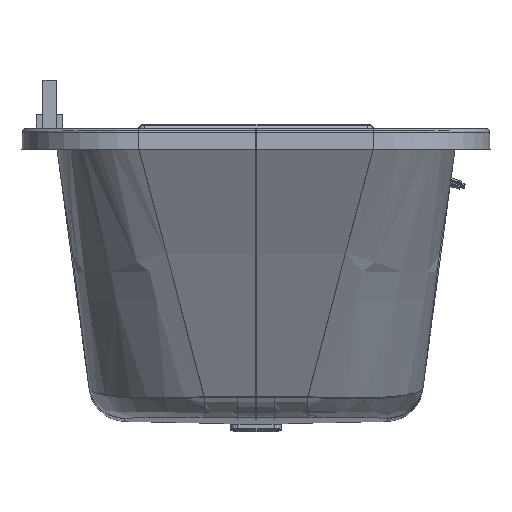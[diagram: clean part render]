
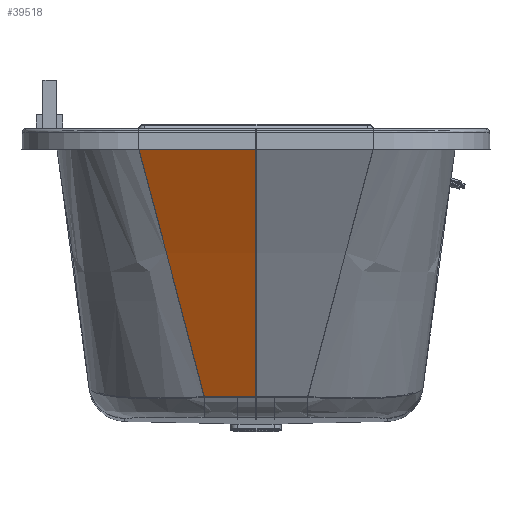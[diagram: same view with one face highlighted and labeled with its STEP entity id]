
A CAD part, left-side view. The second image highlights one B-rep face of the part: STEP entity #39518.
In plain terms, the highlighted free-form (B-spline) face has degree [2, 1] with [5, 2] control points.
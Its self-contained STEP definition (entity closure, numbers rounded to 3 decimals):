
#21742=CARTESIAN_POINT('',(-616.805,0.734,-458.835));
#21743=VERTEX_POINT('',#21742);
#21825=CARTESIAN_POINT('',(-839.7,0.734,-33.56));
#21826=VERTEX_POINT('',#21825);
#23686=CARTESIAN_POINT('',(-616.839,88.33,-458.768));
#23687=VERTEX_POINT('',#23686);
#23780=CARTESIAN_POINT('',(-616.805,31.58,-458.835));
#23781=VERTEX_POINT('',#23780);
#23789=CARTESIAN_POINT('',(-616.805,31.58,-458.835));
#23790=CARTESIAN_POINT('',(-616.805,40.278,-458.835));
#23791=CARTESIAN_POINT('',(-616.81,59.194,-458.824));
#23792=CARTESIAN_POINT('',(-616.827,78.111,-458.792));
#23793=CARTESIAN_POINT('',(-616.839,88.33,-458.768));
#23794=B_SPLINE_CURVE_WITH_KNOTS('',3,(#23789,#23790,#23791,#23792,#23793),.UNSPECIFIED.,.F.,.U.,(4,1,4),(0.0,26.223,57.033),.UNSPECIFIED.);
#23795=EDGE_CURVE('',#23781,#23687,#23794,.T.);
#23813=CARTESIAN_POINT('',(-616.805,0.734,-458.835));
#23814=DIRECTION('',(0.0,1.0,0.0));
#23815=VECTOR('',#23814,30.846);
#23816=LINE('',#23813,#23815);
#23817=EDGE_CURVE('',#21743,#23781,#23816,.T.);
#23942=CARTESIAN_POINT('',(-839.7,200.544,-33.56));
#23943=VERTEX_POINT('',#23942);
#23951=CARTESIAN_POINT('',(-839.7,200.544,-33.56));
#23952=DIRECTION('',(0.0,-1.0,0.0));
#23953=VECTOR('',#23952,199.809);
#23954=LINE('',#23951,#23953);
#23955=EDGE_CURVE('',#23943,#21826,#23954,.T.);
#39346=CARTESIAN_POINT('',(-742.87,153.104,-211.955));
#39347=VERTEX_POINT('',#39346);
#39348=CARTESIAN_POINT('',(-616.839,88.33,-458.768));
#39349=CARTESIAN_POINT('',(-628.863,94.521,-435.169));
#39350=CARTESIAN_POINT('',(-640.887,100.713,-411.57));
#39351=CARTESIAN_POINT('',(-652.912,106.903,-387.971));
#39352=CARTESIAN_POINT('',(-664.936,113.093,-364.371));
#39353=CARTESIAN_POINT('',(-676.96,119.289,-340.773));
#39354=CARTESIAN_POINT('',(-692.626,127.353,-310.026));
#39355=CARTESIAN_POINT('',(-708.292,135.419,-279.28));
#39356=CARTESIAN_POINT('',(-711.936,137.294,-272.134));
#39357=CARTESIAN_POINT('',(-715.576,139.17,-264.986));
#39358=CARTESIAN_POINT('',(-719.21,141.045,-257.835));
#39359=CARTESIAN_POINT('',(-725.177,144.106,-246.168));
#39360=CARTESIAN_POINT('',(-731.174,147.167,-234.516));
#39361=CARTESIAN_POINT('',(-733.504,148.355,-229.999));
#39362=CARTESIAN_POINT('',(-735.839,149.542,-225.485));
#39363=CARTESIAN_POINT('',(-738.178,150.729,-220.972));
#39364=CARTESIAN_POINT('',(-740.522,151.917,-216.463));
#39365=CARTESIAN_POINT('',(-742.87,153.104,-211.955));
#39366=B_SPLINE_CURVE_WITH_KNOTS('',7,(#39348,#39349,#39350,#39351,#39352,#39353,#39354,#39355,#39356,#39357,#39358,#39359,#39360,#39361,#39362,#39363,#39364,#39365),.UNSPECIFIED.,.F.,.U.,(8,5,5,8),(0.072,0.43,0.538,0.607),.UNSPECIFIED.);
#39367=EDGE_CURVE('',#23687,#39347,#39366,.T.);
#39369=CARTESIAN_POINT('',(-838.887,200.157,-35.0));
#39370=VERTEX_POINT('',#39369);
#39371=CARTESIAN_POINT('',(-742.87,153.104,-211.955));
#39372=CARTESIAN_POINT('',(-756.16,159.824,-186.446));
#39373=CARTESIAN_POINT('',(-769.592,166.545,-161.013));
#39374=CARTESIAN_POINT('',(-783.168,173.266,-135.655));
#39375=CARTESIAN_POINT('',(-796.886,179.983,-110.373));
#39376=CARTESIAN_POINT('',(-810.745,186.707,-85.169));
#39377=CARTESIAN_POINT('',(-824.746,193.431,-60.045));
#39378=CARTESIAN_POINT('',(-838.887,200.157,-35.));
#39379=B_SPLINE_CURVE_WITH_KNOTS('',7,(#39371,#39372,#39373,#39374,#39375,#39376,#39377,#39378),.UNSPECIFIED.,.F.,.U.,(8,8),(0.607,0.995),.UNSPECIFIED.);
#39380=EDGE_CURVE('',#39347,#39370,#39379,.T.);
#39382=CARTESIAN_POINT('',(-838.887,200.157,-35.));
#39383=CARTESIAN_POINT('',(-839.003,200.212,-34.794));
#39384=CARTESIAN_POINT('',(-839.119,200.268,-34.589));
#39385=CARTESIAN_POINT('',(-839.235,200.323,-34.383));
#39386=CARTESIAN_POINT('',(-839.352,200.378,-34.177));
#39387=CARTESIAN_POINT('',(-839.468,200.433,-33.972));
#39388=CARTESIAN_POINT('',(-839.584,200.489,-33.766));
#39389=CARTESIAN_POINT('',(-839.7,200.544,-33.56));
#39390=B_SPLINE_CURVE_WITH_KNOTS('',7,(#39382,#39383,#39384,#39385,#39386,#39387,#39388,#39389),.UNSPECIFIED.,.F.,.U.,(8,8),(0.995,0.998),.UNSPECIFIED.);
#39391=EDGE_CURVE('',#39370,#23943,#39390,.T.);
#39447=CARTESIAN_POINT('',(-839.7,0.734,-33.56));
#39448=CARTESIAN_POINT('',(-776.481,0.734,-145.454));
#39449=CARTESIAN_POINT('',(-718.135,0.734,-259.964));
#39450=CARTESIAN_POINT('',(-667.47,0.734,-359.399));
#39451=CARTESIAN_POINT('',(-616.805,0.734,-458.835));
#39452=CARTESIAN_POINT('',(-839.7,200.544,-33.56));
#39453=CARTESIAN_POINT('',(-776.481,200.544,-145.454));
#39454=CARTESIAN_POINT('',(-718.135,200.544,-259.964));
#39455=CARTESIAN_POINT('',(-667.47,200.544,-359.399));
#39456=CARTESIAN_POINT('',(-616.805,200.544,-458.835));
#39464=(BOUNDED_SURFACE()B_SPLINE_SURFACE(2,1,((#39447,#39452),(#39448,#39453),(#39449,#39454),(#39450,#39455),(#39451,#39456)),.UNSPECIFIED.,.F.,.F.,.U.)B_SPLINE_SURFACE_WITH_KNOTS((3,2,3),(2,2),(0.819,259.118,483.414),(0.,1.),.UNSPECIFIED.)GEOMETRIC_REPRESENTATION_ITEM()RATIONAL_B_SPLINE_SURFACE(((1.,1.),(1.,1.),(1.0,1.0),(1.0,1.0),(1.0,1.0)))REPRESENTATION_ITEM('')SURFACE());
#39465=CARTESIAN_POINT('',(-838.887,0.734,-35.0));
#39466=VERTEX_POINT('',#39465);
#39467=CARTESIAN_POINT('',(-742.87,0.734,-211.955));
#39468=VERTEX_POINT('',#39467);
#39469=CARTESIAN_POINT('',(-838.887,0.734,-35.));
#39470=CARTESIAN_POINT('',(-789.387,0.734,-122.668));
#39471=CARTESIAN_POINT('',(-742.87,0.734,-211.955));
#39479=(BOUNDED_CURVE()B_SPLINE_CURVE(2,(#39469,#39470,#39471),.UNSPECIFIED.,.F.,.U.)B_SPLINE_CURVE_WITH_KNOTS((3,3),(2.481,204.822),.UNSPECIFIED.)CURVE()GEOMETRIC_REPRESENTATION_ITEM()RATIONAL_B_SPLINE_CURVE((1.,1.,1.))REPRESENTATION_ITEM(''));
#39480=EDGE_CURVE('',#39466,#39468,#39479,.T.);
#39481=ORIENTED_EDGE('',*,*,#39480,.F.);
#39482=CARTESIAN_POINT('',(-839.7,0.734,-33.56));
#39483=CARTESIAN_POINT('',(-839.293,0.734,-34.28));
#39484=CARTESIAN_POINT('',(-838.887,0.734,-35.));
#39492=(BOUNDED_CURVE()B_SPLINE_CURVE(2,(#39482,#39483,#39484),.UNSPECIFIED.,.F.,.U.)B_SPLINE_CURVE_WITH_KNOTS((3,3),(0.819,2.481),.UNSPECIFIED.)CURVE()GEOMETRIC_REPRESENTATION_ITEM()RATIONAL_B_SPLINE_CURVE((1.,1.,1.))REPRESENTATION_ITEM(''));
#39493=EDGE_CURVE('',#21826,#39466,#39492,.T.);
#39494=ORIENTED_EDGE('',*,*,#39493,.F.);
#39495=ORIENTED_EDGE('',*,*,#23955,.F.);
#39496=ORIENTED_EDGE('',*,*,#39391,.F.);
#39497=ORIENTED_EDGE('',*,*,#39380,.F.);
#39498=ORIENTED_EDGE('',*,*,#39367,.F.);
#39499=ORIENTED_EDGE('',*,*,#23795,.F.);
#39500=ORIENTED_EDGE('',*,*,#23817,.F.);
#39501=CARTESIAN_POINT('',(-742.87,0.734,-211.955));
#39502=CARTESIAN_POINT('',(-730.394,0.734,-235.904));
#39503=CARTESIAN_POINT('',(-718.135,0.734,-259.964));
#39504=CARTESIAN_POINT('',(-667.47,0.734,-359.399));
#39505=CARTESIAN_POINT('',(-616.805,0.734,-458.835));
#39513=(BOUNDED_CURVE()B_SPLINE_CURVE(2,(#39501,#39502,#39503,#39504,#39505),.UNSPECIFIED.,.F.,.U.)B_SPLINE_CURVE_WITH_KNOTS((3,2,3),(204.822,259.1,483.414),.UNSPECIFIED.)CURVE()GEOMETRIC_REPRESENTATION_ITEM()RATIONAL_B_SPLINE_CURVE((1.,1.,1.0,1.0,1.0))REPRESENTATION_ITEM(''));
#39514=EDGE_CURVE('',#39468,#21743,#39513,.T.);
#39515=ORIENTED_EDGE('',*,*,#39514,.F.);
#39516=EDGE_LOOP('',(#39481,#39494,#39495,#39496,#39497,#39498,#39499,#39500,#39515));
#39517=FACE_OUTER_BOUND('',#39516,.T.);
#39518=ADVANCED_FACE('',(#39517),#39464,.F.);
